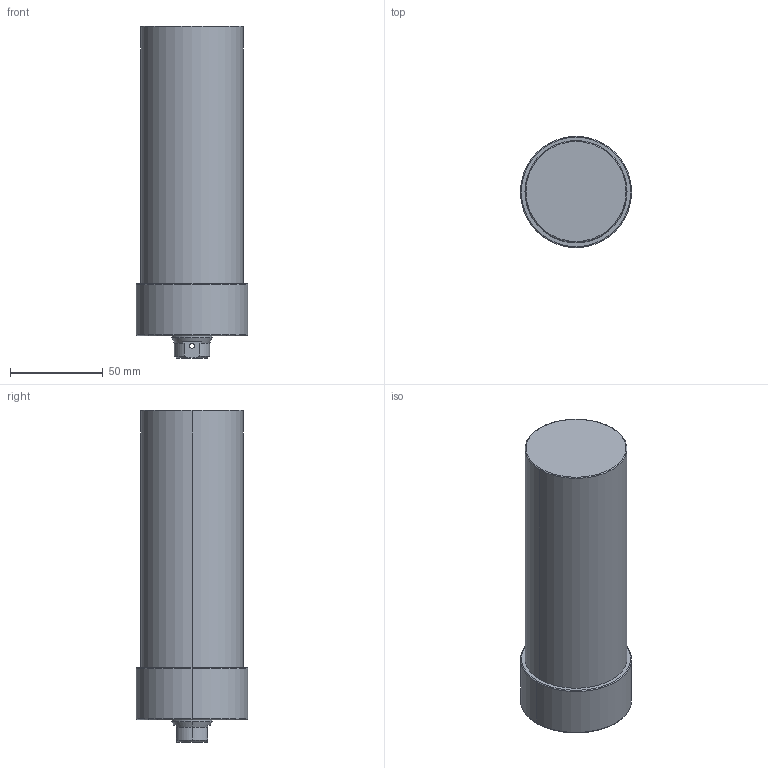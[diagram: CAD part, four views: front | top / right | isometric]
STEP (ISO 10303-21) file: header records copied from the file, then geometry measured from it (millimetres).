
FILE_DESCRIPTION (( 'STEP AP203' ), '1' );
FILE_NAME ('CLLU-055GB-110.STEP', '2020-01-06T07:21:59', ( '' ), ( '' ), 'SwSTEP 2.0', 'SolidWorks 2015', '' );
FILE_SCHEMA (( 'CONFIG_CONTROL_DESIGN' ));
Length unit declared in the file: millimetre
Products named in the file (1): CLLU-055GB-110
Bounding box: 60 x 60 x 179 mm (x, y, z)
Volume: 409699.1 mm3; surface area: 37388.6 mm2
Topology: 1 solids, 1 shells, 68 faces, 155 edges, 88 vertices
Faces by surface type: cylinder 27, cone 25, plane 10, torus 6
Entity records: 2021 total; most frequent: CARTESIAN_POINT 422, DIRECTION 350, ORIENTED_EDGE 290, AXIS2_PLACEMENT_3D 148, EDGE_CURVE 145, VERTEX_POINT 88, EDGE_LOOP 81, CIRCLE 79
